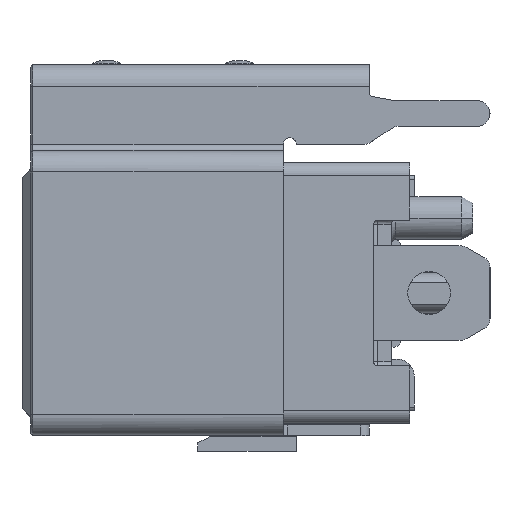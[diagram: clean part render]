
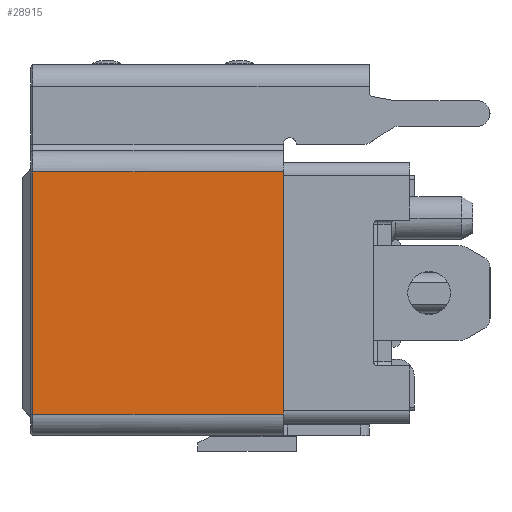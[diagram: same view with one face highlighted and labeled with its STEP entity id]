
A CAD part, left-side view. The second image highlights one B-rep face of the part: STEP entity #28915.
In plain terms, the highlighted planar face has unit normal (-1, 0, 0).
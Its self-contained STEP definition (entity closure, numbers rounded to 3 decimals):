
#6112=DIRECTION('',(0.,-1.,0.));
#6113=VECTOR('',#6112,5.85);
#6114=CARTESIAN_POINT('',(-11.492,8.37,
-2.825));
#6115=LINE('',#6114,#6113);
#6184=DIRECTION('',(0.,0.,-1.));
#6185=VECTOR('',#6184,3.43);
#6186=CARTESIAN_POINT('',(-11.493,2.22,1.715));
#6187=LINE('',#6186,#6185);
#6236=DIRECTION('',(0.,0.,1.));
#6237=VECTOR('',#6236,0.22);
#6238=CARTESIAN_POINT('',(-11.493,2.52,-2.035));
#6239=LINE('',#6238,#6237);
#6244=CARTESIAN_POINT('',(-11.493,2.42,-1.815));
#6245=DIRECTION('',(-1.,0.,0.));
#6246=DIRECTION('',(0.,0.,1.));
#6247=AXIS2_PLACEMENT_3D('',#6244,#6245,#6246);
#6249=DIRECTION('',(0.,0.,-1.));
#6250=VECTOR('',#6249,0.79);
#6251=CARTESIAN_POINT('',(-11.493,2.52,-2.035));
#6252=LINE('',#6251,#6250);
#6253=DIRECTION('',(0.,0.,-1.));
#6254=VECTOR('',#6253,0.79);
#6255=CARTESIAN_POINT('',(-11.493,2.52,2.825));
#6256=LINE('',#6255,#6254);
#6257=CARTESIAN_POINT('',(-11.493,2.42,1.815));
#6258=DIRECTION('',(-1.,0.,0.));
#6259=DIRECTION('',(0.,1.,0.));
#6260=AXIS2_PLACEMENT_3D('',#6257,#6258,#6259);
#6262=CARTESIAN_POINT('',(-11.493,2.42,1.815));
#6263=DIRECTION('',(-1.,0.,0.));
#6264=DIRECTION('',(0.,0.958,-0.287));
#6265=AXIS2_PLACEMENT_3D('',#6262,#6263,#6264);
#6275=DIRECTION('',(0.,-1.,0.));
#6276=VECTOR('',#6275,0.2);
#6277=CARTESIAN_POINT('',(-11.493,2.42,-1.715));
#6278=LINE('',#6277,#6276);
#6287=DIRECTION('',(0.,0.,-1.));
#6288=VECTOR('',#6287,5.65);
#6289=CARTESIAN_POINT('',(-11.492,8.37,2.825));
#6290=LINE('',#6289,#6288);
#7378=DIRECTION('',(0.,1.,0.));
#7379=VECTOR('',#7378,5.85);
#7380=CARTESIAN_POINT('',(-11.493,2.52,2.825));
#7381=LINE('',#7380,#7379);
#14336=DIRECTION('',(0.,0.,1.));
#14337=VECTOR('',#14336,0.22);
#14338=CARTESIAN_POINT('',(-11.493,2.52,1.815));
#14339=LINE('',#14338,#14337);
#14352=DIRECTION('',(0.,-1.,0.));
#14353=VECTOR('',#14352,0.2);
#14354=CARTESIAN_POINT('',(-11.493,2.42,1.715));
#14355=LINE('',#14354,#14353);
#17629=CARTESIAN_POINT('',(-11.493,2.52,-2.825));
#17630=VERTEX_POINT('',#17629);
#17631=CARTESIAN_POINT('',(-11.493,2.52,-2.035));
#17632=VERTEX_POINT('',#17631);
#17637=CARTESIAN_POINT('',(-11.493,2.52,2.035));
#17638=VERTEX_POINT('',#17637);
#17639=CARTESIAN_POINT('',(-11.493,2.52,2.825));
#17640=VERTEX_POINT('',#17639);
#17743=CARTESIAN_POINT('',(-11.493,2.22,1.715));
#17744=CARTESIAN_POINT('',(-11.493,2.22,-1.715));
#17745=VERTEX_POINT('',#17743);
#17746=VERTEX_POINT('',#17744);
#17747=CARTESIAN_POINT('',(-11.493,2.42,1.715));
#17748=VERTEX_POINT('',#17747);
#17749=CARTESIAN_POINT('',(-11.493,2.516,1.786));
#17750=VERTEX_POINT('',#17749);
#17751=CARTESIAN_POINT('',(-11.493,2.52,1.815));
#17752=VERTEX_POINT('',#17751);
#17753=CARTESIAN_POINT('',(-11.492,8.37,
2.825));
#17754=VERTEX_POINT('',#17753);
#17755=CARTESIAN_POINT('',(-11.492,8.37,
-2.825));
#17756=VERTEX_POINT('',#17755);
#17757=CARTESIAN_POINT('',(-11.493,2.52,-1.815));
#17758=VERTEX_POINT('',#17757);
#17759=CARTESIAN_POINT('',(-11.493,2.42,-1.715));
#17760=VERTEX_POINT('',#17759);
#28887=CARTESIAN_POINT('',(-11.493,5.295,0.));
#28888=DIRECTION('',(1.,0.,0.));
#28889=DIRECTION('',(0.,0.,-1.));
#28890=AXIS2_PLACEMENT_3D('',#28887,#28888,#28889);
#28891=PLANE('',#28890);
#28892=ORIENTED_EDGE('',*,*,#28805,.T.);
#28894=ORIENTED_EDGE('',*,*,#28893,.F.);
#28896=ORIENTED_EDGE('',*,*,#28895,.T.);
#28897=ORIENTED_EDGE('',*,*,#28879,.F.);
#28898=ORIENTED_EDGE('',*,*,#28212,.T.);
#28899=ORIENTED_EDGE('',*,*,#28683,.F.);
#28901=ORIENTED_EDGE('',*,*,#28900,.F.);
#28903=ORIENTED_EDGE('',*,*,#28902,.F.);
#28904=ORIENTED_EDGE('',*,*,#28220,.T.);
#28906=ORIENTED_EDGE('',*,*,#28905,.F.);
#28908=ORIENTED_EDGE('',*,*,#28907,.T.);
#28910=ORIENTED_EDGE('',*,*,#28909,.T.);
#28912=ORIENTED_EDGE('',*,*,#28911,.T.);
#28913=EDGE_LOOP('',(#28892,#28894,#28896,#28897,#28898,#28899,#28901,#28903,
#28904,#28906,#28908,#28910,#28912));
#28914=FACE_OUTER_BOUND('',#28913,.F.);
#28915=ADVANCED_FACE('',(#28914),#28891,.F.);
#6248=CIRCLE('',#6247,0.1);
#6261=CIRCLE('',#6260,0.1);
#6266=CIRCLE('',#6265,0.1);
#28212=EDGE_CURVE('',#17632,#17630,#6252,.T.);
#28220=EDGE_CURVE('',#17640,#17638,#6256,.T.);
#28683=EDGE_CURVE('',#17756,#17630,#6115,.T.);
#28805=EDGE_CURVE('',#17745,#17746,#6187,.T.);
#28879=EDGE_CURVE('',#17632,#17758,#6239,.T.);
#28893=EDGE_CURVE('',#17760,#17746,#6278,.T.);
#28895=EDGE_CURVE('',#17760,#17758,#6248,.T.);
#28900=EDGE_CURVE('',#17754,#17756,#6290,.T.);
#28902=EDGE_CURVE('',#17640,#17754,#7381,.T.);
#28905=EDGE_CURVE('',#17752,#17638,#14339,.T.);
#28907=EDGE_CURVE('',#17752,#17750,#6261,.T.);
#28909=EDGE_CURVE('',#17750,#17748,#6266,.T.);
#28911=EDGE_CURVE('',#17748,#17745,#14355,.T.);
